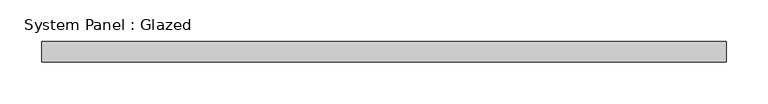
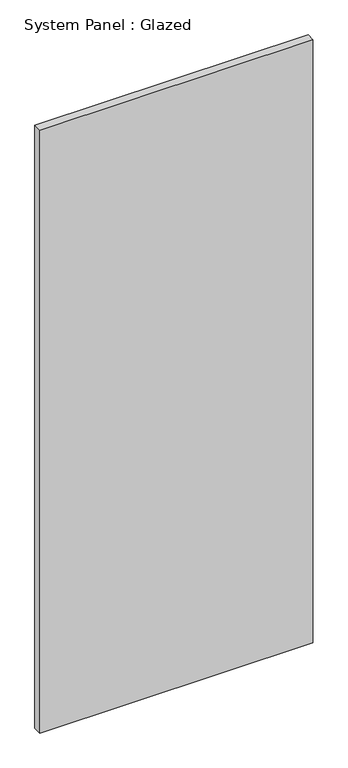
"""IFC4 building model written with IfcOpenShell, lengths in millimetres: plate geometry, System Panel : Glazed."""

from ifc_helpers import new_model, si_unit, origin, origin_with_axes, place, context, project, spatial, polyline, outline, extrude, source, transform, mapped, element, save


def system_panel_glazed_073ab813(model_context):
    return source(origin(), model_context, "Body", "SweptSolid", [
        extrude(outline(polyline([(412.5000001, 24.5), (-412.5000001, 24.5), (-412.5000001, 49.5), (412.5000001, 49.5), (412.5000001, 24.5)])), origin_with_axes(), (0.0, 0.0, 1.0), 1925.0),
    ])


if __name__ == "__main__":
    model = new_model("IFC4")
    model_context = context("Model", 3, world=origin())
    ifc_project = project(units=[si_unit("LENGTHUNIT", "METRE", prefix="MILLI")], contexts=[model_context])
    site = spatial("IfcSite", under=ifc_project)
    building = spatial("IfcBuilding", under=site)
    placement = place(None, origin())
    system_panel_glazed_shape = system_panel_glazed_073ab813(model_context)
    element("IfcPlate", 1, ObjectType="System Panel : Glazed", at=placement, inside=building, context=model_context, shape_type="MappedRepresentation", body=[
        mapped(system_panel_glazed_shape, transform((0.0, 0.0, 0.0), x_axis=(1.0, 0.0, 0.0), y_axis=(0.0, 1.0, 0.0), z_axis=(0.0, 0.0, 1.0))),
    ])
    save(model, "model.ifc")
